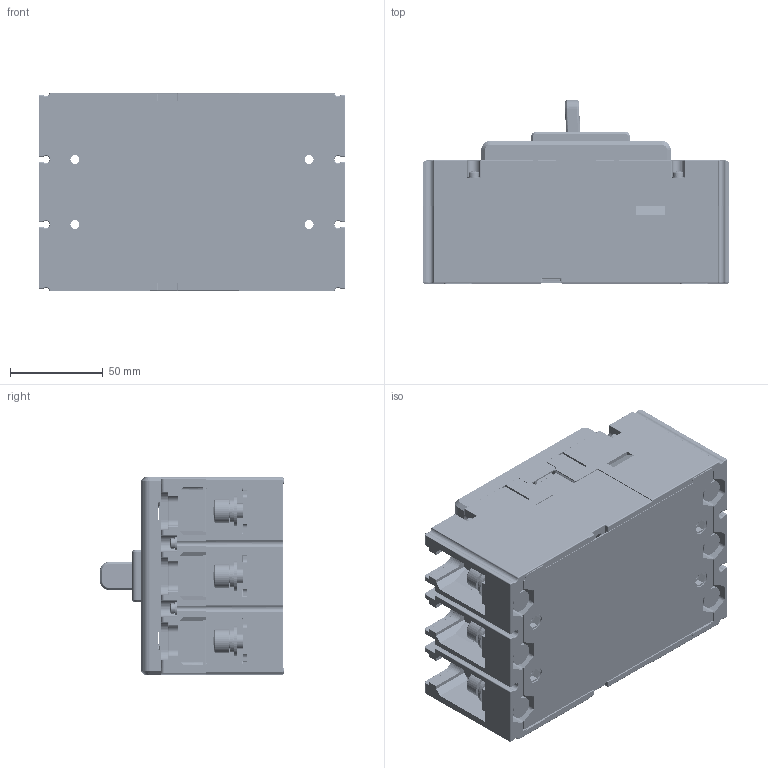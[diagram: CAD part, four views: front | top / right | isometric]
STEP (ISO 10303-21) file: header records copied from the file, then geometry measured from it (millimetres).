
FILE_DESCRIPTION((''),'2;1');
FILE_NAME('ASM0001_ASM','2025-04-28T',('Administrator'),(''),'PRO/ENGINEER BY PARAMETRIC TECHNOLOGY CORPORATION, 2015440','PRO/ENGINEER BY PARAMETRIC TECHNOLOGY CORPORATION, 2015440','');
FILE_SCHEMA(('CONFIG_CONTROL_DESIGN'));
Products named in the file (40): JZ-5024044300_3; GB_T809-M3X12_8; 5024044300_ASM_2_ASM; 8940007200_8; 8551033400_4; 8550073500_8; 5551070200_ASM_4_ASM; 7010100305R01_GB_T823_M3X10_8; 7090300201_GB_T93_3_8; GB_T97_4_3_8; 5850007700_ASM_8_ASM; 8585063900_5; 160S3P_ASM_5_ASM; 8750030100_5; 8751002200_5; 8253076600_8; 5253029200_ASM_8_ASM; GB_T809-M3X8_8; 5315050000_ASM_4_ASM; 8282018100_AF0_8; 8253077300_8; 5315051200_ASM_4_ASM; 8315095900_8; 5315051400_ASM_5_ASM; 7030100225_GB_T9074_4-M3X30_8; GB_T70_1-M8X20_8; 7090200704_GB_T97_1_8_8; 7090370701K_GB_T93_8_8; 5850004100_AF0_ASM_9_ASM; 5850004100_AF1_ASM_9_ASM; 5850004100_AF2_ASM_9_ASM; 5850004100_AF3_ASM_9_ASM; 5850004100_AF4_ASM_9_ASM; 5850004100_AF5_ASM_9_ASM; 8742102700_5; CDM3V-160S3P_ASM_6_ASM; ZG-5315076300; GB_T809-M3X8; 5315076300_ASM; ASM0001_ASM
Assembly tree (103 placements, depth 6):
  ASM0001_ASM
    CDM3V-160S3P_ASM_6_ASM
      160S3P_ASM_5_ASM
        5024044300_ASM_2_ASM
          JZ-5024044300_3
          GB_T809-M3X12_8  x9
        8940007200_8  x6
        5551070200_ASM_4_ASM  x3
          8551033400_4
          8550073500_8
        5850007700_ASM_8_ASM  x12
          7010100305R01_GB_T823_M3X10_8
          7090300201_GB_T93_3_8
          GB_T97_4_3_8
        8585063900_5  x3
      8750030100_5  x3
      8751002200_5  x3
      5253029200_ASM_8_ASM
        8253076600_8
      5315051400_ASM_5_ASM
        5315051200_ASM_4_ASM
          5315050000_ASM_4_ASM
            GB_T809-M3X8_8  x4
          8282018100_AF0_8
          8253077300_8
        8315095900_8
        5850007700_ASM_8_ASM  x4
          7010100305R01_GB_T823_M3X10_8
          7090300201_GB_T93_3_8
          GB_T97_4_3_8
      7030100225_GB_T9074_4-M3X30_8  x8
      5850004100_AF0_ASM_9_ASM
        GB_T70_1-M8X20_8
        7090200704_GB_T97_1_8_8
        7090370701K_GB_T93_8_8
      5850004100_AF1_ASM_9_ASM
        GB_T70_1-M8X20_8
        7090200704_GB_T97_1_8_8
        7090370701K_GB_T93_8_8
      5850004100_AF2_ASM_9_ASM
        GB_T70_1-M8X20_8
        7090200704_GB_T97_1_8_8
        7090370701K_GB_T93_8_8
      5850004100_AF3_ASM_9_ASM
        GB_T70_1-M8X20_8
        7090200704_GB_T97_1_8_8
        7090370701K_GB_T93_8_8
      5850004100_AF4_ASM_9_ASM
        GB_T70_1-M8X20_8
        7090200704_GB_T97_1_8_8
        7090370701K_GB_T93_8_8
      5850004100_AF5_ASM_9_ASM
        GB_T70_1-M8X20_8
        7090200704_GB_T97_1_8_8
        7090370701K_GB_T93_8_8
      8742102700_5
    5315076300_ASM
      ZG-5315076300
      GB_T809-M3X8  x4
Bounding box: 165 x 99.35 x 107 mm (x, y, z)
Volume: 476305.3 mm3; surface area: 341006.9 mm2
Topology: 119 solids, 178 shells, 8150 faces, 21022 edges, 13326 vertices
Faces by surface type: plane 4073, cylinder 2731, torus 528, cone 298, sphere 241, extrusion 150, bspline 129
Entity records: 208271 total; most frequent: CARTESIAN_POINT 53980, ORIENTED_EDGE 32246, DIRECTION 31978, EDGE_CURVE 16143, AXIS2_PLACEMENT_3D 10678, VECTOR 10622, LINE 10472, VERTEX_POINT 10248
